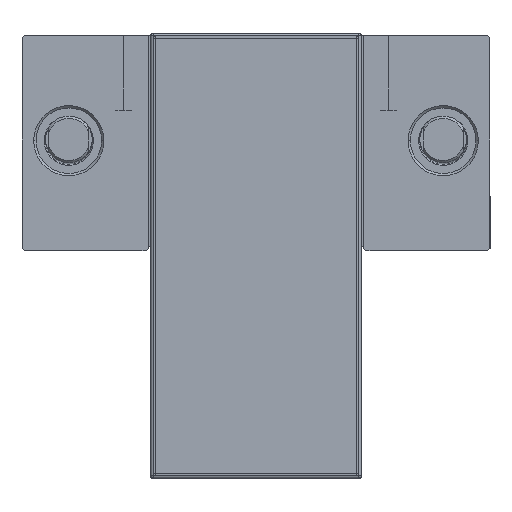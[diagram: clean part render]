
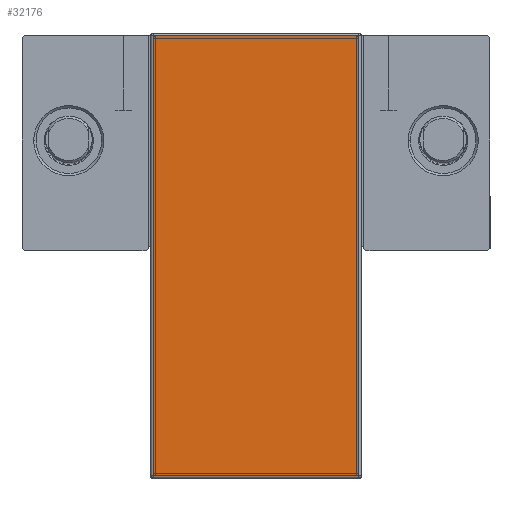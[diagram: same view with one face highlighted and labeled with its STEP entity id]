
A CAD part, top view. The second image highlights one B-rep face of the part: STEP entity #32176.
In plain terms, the highlighted planar face has unit normal (0, 0, 1).
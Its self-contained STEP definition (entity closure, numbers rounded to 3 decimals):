
#177 = VERTEX_POINT ( 'NONE', #37322 ) ;
#954 = CARTESIAN_POINT ( 'NONE',  ( -44., 44., 471. ) ) ;
#2929 = CARTESIAN_POINT ( 'NONE',  ( -44., -144., 471. ) ) ;
#3481 = LINE ( 'NONE', #954, #9545 ) ;
#5501 = CARTESIAN_POINT ( 'NONE',  ( 44., 44., 471. ) ) ;
#5951 = DIRECTION ( 'NONE',  ( 0., -1., 0. ) ) ;
#6830 = AXIS2_PLACEMENT_3D ( 'NONE', #26169, #17357, #38100 ) ;
#7024 = EDGE_CURVE ( 'NONE', #7562, #177, #28201, .T. ) ;
#7562 = VERTEX_POINT ( 'NONE', #25948 ) ;
#7826 = ORIENTED_EDGE ( 'NONE', *, *, #7024, .T. ) ;
#7904 = DIRECTION ( 'NONE',  ( 0., 1., 0. ) ) ;
#8689 = EDGE_CURVE ( 'NONE', #38174, #7562, #3481, .T. ) ;
#9545 = VECTOR ( 'NONE', #21697, 1000. ) ;
#10938 = CARTESIAN_POINT ( 'NONE',  ( 44., -144., 471. ) ) ;
#11357 = EDGE_CURVE ( 'NONE', #35799, #38174, #28473, .T. ) ;
#16954 = FACE_OUTER_BOUND ( 'NONE', #17093, .T. ) ;
#17093 = EDGE_LOOP ( 'NONE', ( #7826, #17553, #22992, #31469 ) ) ;
#17357 = DIRECTION ( 'NONE',  ( 0., 0., 1. ) ) ;
#17553 = ORIENTED_EDGE ( 'NONE', *, *, #19998, .T. ) ;
#19998 = EDGE_CURVE ( 'NONE', #177, #35799, #29003, .T. ) ;
#21096 = VECTOR ( 'NONE', #37657, 1000. ) ;
#21697 = DIRECTION ( 'NONE',  ( -1., 0., 0. ) ) ;
#22992 = ORIENTED_EDGE ( 'NONE', *, *, #11357, .T. ) ;
#25658 = CARTESIAN_POINT ( 'NONE',  ( 44., 44., 471. ) ) ;
#25948 = CARTESIAN_POINT ( 'NONE',  ( -44., 44., 471. ) ) ;
#26169 = CARTESIAN_POINT ( 'NONE',  ( -44., -144., 471. ) ) ;
#27529 = VECTOR ( 'NONE', #7904, 1000. ) ;
#28201 = LINE ( 'NONE', #2929, #36050 ) ;
#28473 = LINE ( 'NONE', #25658, #27529 ) ;
#29003 = LINE ( 'NONE', #10938, #21096 ) ;
#31469 = ORIENTED_EDGE ( 'NONE', *, *, #8689, .T. ) ;
#32176 = ADVANCED_FACE ( 'NONE', ( #16954 ), #35120, .T. ) ;
#35120 = PLANE ( 'NONE',  #6830 ) ;
#35799 = VERTEX_POINT ( 'NONE', #37300 ) ;
#36050 = VECTOR ( 'NONE', #5951, 1000. ) ;
#37300 = CARTESIAN_POINT ( 'NONE',  ( 44., -144., 471. ) ) ;
#37322 = CARTESIAN_POINT ( 'NONE',  ( -44., -144., 471. ) ) ;
#37657 = DIRECTION ( 'NONE',  ( 1., 0., 0. ) ) ;
#38100 = DIRECTION ( 'NONE',  ( 1., 0., 0. ) ) ;
#38174 = VERTEX_POINT ( 'NONE', #5501 ) ;
